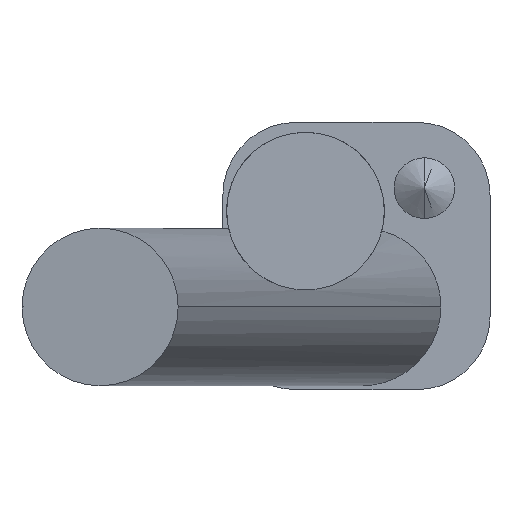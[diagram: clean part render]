
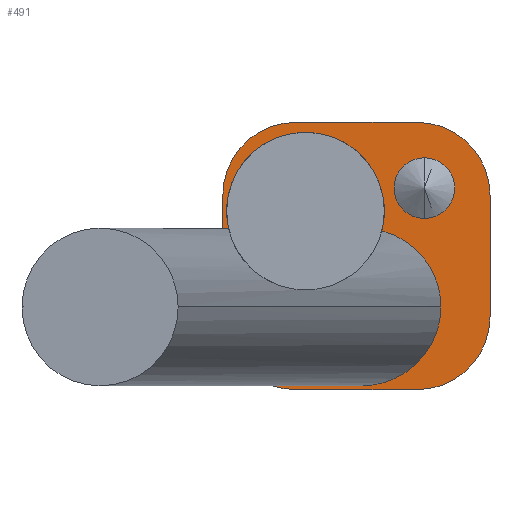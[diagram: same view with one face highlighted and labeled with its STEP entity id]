
A CAD part, front view. The second image highlights one B-rep face of the part: STEP entity #491.
In plain terms, the highlighted planar face has unit normal (0, -1, 0).
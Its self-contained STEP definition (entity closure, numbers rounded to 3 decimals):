
#3 = CIRCLE ( 'NONE', #97, 6. ) ;
#7 = DIRECTION ( 'NONE',  ( 0., 0., -1. ) ) ;
#12 = CARTESIAN_POINT ( 'NONE',  ( -11.012, 0., 11.012 ) ) ;
#15 = DIRECTION ( 'NONE',  ( 0., -1., 0. ) ) ;
#16 = VERTEX_POINT ( 'NONE', #583 ) ;
#30 = CARTESIAN_POINT ( 'NONE',  ( 6.968, 0., -4.2 ) ) ;
#33 = ORIENTED_EDGE ( 'NONE', *, *, #233, .T. ) ;
#38 = CARTESIAN_POINT ( 'NONE',  ( 2.095, 0., 2.081 ) ) ;
#45 = AXIS2_PLACEMENT_3D ( 'NONE', #721, #311, #667 ) ;
#46 = CARTESIAN_POINT ( 'NONE',  ( 2.095, 0., 2.081 ) ) ;
#48 = LINE ( 'NONE', #12, #636 ) ;
#52 = VERTEX_POINT ( 'NONE', #639 ) ;
#63 = CARTESIAN_POINT ( 'NONE',  ( -6.159, 0., -4.2 ) ) ;
#64 = ORIENTED_EDGE ( 'NONE', *, *, #724, .F. ) ;
#66 = EDGE_CURVE ( 'NONE', #320, #85, #246, .T. ) ;
#71 = VERTEX_POINT ( 'NONE', #353 ) ;
#76 = VECTOR ( 'NONE', #699, 1000. ) ;
#80 = AXIS2_PLACEMENT_3D ( 'NONE', #179, #641, #643 ) ;
#83 = DIRECTION ( 'NONE',  ( 0., -1., 0. ) ) ;
#85 = VERTEX_POINT ( 'NONE', #117 ) ;
#88 = VERTEX_POINT ( 'NONE', #125 ) ;
#97 = AXIS2_PLACEMENT_3D ( 'NONE', #568, #454, #7 ) ;
#103 = DIRECTION ( 'NONE',  ( 1., 0., 0. ) ) ;
#104 = CIRCLE ( 'NONE', #378, 2.5 ) ;
#106 = CARTESIAN_POINT ( 'NONE',  ( -11.012, 0., -5.012 ) ) ;
#108 = CARTESIAN_POINT ( 'NONE',  ( -5.012, 0., 11.012 ) ) ;
#110 = DIRECTION ( 'NONE',  ( -1., 0., 0. ) ) ;
#113 = DIRECTION ( 'NONE',  ( 0., 0., -1. ) ) ;
#114 = ORIENTED_EDGE ( 'NONE', *, *, #494, .T. ) ;
#117 = CARTESIAN_POINT ( 'NONE',  ( 11.013, 0., -5.012 ) ) ;
#120 = CARTESIAN_POINT ( 'NONE',  ( -6.088, 0., -3.097 ) ) ;
#122 = FACE_OUTER_BOUND ( 'NONE', #624, .T. ) ;
#125 = CARTESIAN_POINT ( 'NONE',  ( 5.6, 0., 3.1 ) ) ;
#126 = ORIENTED_EDGE ( 'NONE', *, *, #255, .F. ) ;
#140 = VERTEX_POINT ( 'NONE', #536 ) ;
#143 =( BOUNDED_CURVE ( )  B_SPLINE_CURVE ( 3, ( #46, #326, #680, #439 ),
 .UNSPECIFIED., .F., .F. ) 
 B_SPLINE_CURVE_WITH_KNOTS ( ( 4, 4 ),
 ( 4.973, 6.283 ),
 .UNSPECIFIED. ) 
 CURVE ( )  GEOMETRIC_REPRESENTATION_ITEM ( )  RATIONAL_B_SPLINE_CURVE ( ( 1., 0.862, 0.862, 1. ) ) 
 REPRESENTATION_ITEM ( '' )  );
#149 = DIRECTION ( 'NONE',  ( 0., -1., 0. ) ) ;
#152 = CARTESIAN_POINT ( 'NONE',  ( -11.012, 0., 11.012 ) ) ;
#172 = DIRECTION ( 'NONE',  ( 0., 0., -1. ) ) ;
#175 = CIRCLE ( 'NONE', #464, 6.5 ) ;
#179 = CARTESIAN_POINT ( 'NONE',  ( 0., 0., 0. ) ) ;
#221 = ORIENTED_EDGE ( 'NONE', *, *, #423, .F. ) ;
#224 = DIRECTION ( 'NONE',  ( 0., -1., 0. ) ) ;
#233 = EDGE_CURVE ( 'NONE', #704, #52, #613, .T. ) ;
#246 = LINE ( 'NONE', #466, #76 ) ;
#253 = LINE ( 'NONE', #465, #486 ) ;
#255 = EDGE_CURVE ( 'NONE', #704, #393, #305, .T. ) ;
#256 = DIRECTION ( 'NONE',  ( 0., 0., -1. ) ) ;
#267 = CARTESIAN_POINT ( 'NONE',  ( 6.968, 0., -4.2 ) ) ;
#275 = VECTOR ( 'NONE', #103, 1000. ) ;
#280 = ORIENTED_EDGE ( 'NONE', *, *, #510, .F. ) ;
#288 = AXIS2_PLACEMENT_3D ( 'NONE', #554, #83, #375 ) ;
#290 = CARTESIAN_POINT ( 'NONE',  ( -6.159, 0., -4.2 ) ) ;
#305 = LINE ( 'NONE', #152, #275 ) ;
#310 = DIRECTION ( 'NONE',  ( 0., 0., 1. ) ) ;
#311 = DIRECTION ( 'NONE',  ( 0., -1., 0. ) ) ;
#312 = EDGE_LOOP ( 'NONE', ( #658, #64 ) ) ;
#320 = VERTEX_POINT ( 'NONE', #611 ) ;
#324 = EDGE_CURVE ( 'NONE', #648, #529, #143, .T. ) ;
#326 = CARTESIAN_POINT ( 'NONE',  ( 5.084, 0., 1.292 ) ) ;
#348 = EDGE_CURVE ( 'NONE', #140, #571, #403, .T. ) ;
#351 = ORIENTED_EDGE ( 'NONE', *, *, #358, .T. ) ;
#353 = CARTESIAN_POINT ( 'NONE',  ( 5.6, 0., 8.1 ) ) ;
#358 = EDGE_CURVE ( 'NONE', #529, #450, #462, .T. ) ;
#360 = VERTEX_POINT ( 'NONE', #522 ) ;
#375 = DIRECTION ( 'NONE',  ( 0., 0., -1. ) ) ;
#377 = DIRECTION ( 'NONE',  ( 0., -1., 0. ) ) ;
#378 = AXIS2_PLACEMENT_3D ( 'NONE', #433, #377, #256 ) ;
#381 = FACE_BOUND ( 'NONE', #689, .T. ) ;
#393 = VERTEX_POINT ( 'NONE', #515 ) ;
#396 = FACE_BOUND ( 'NONE', #312, .T. ) ;
#401 = AXIS2_PLACEMENT_3D ( 'NONE', #731, #224, #172 ) ;
#403 = CIRCLE ( 'NONE', #619, 6.5 ) ;
#410 = ORIENTED_EDGE ( 'NONE', *, *, #66, .F. ) ;
#421 = VERTEX_POINT ( 'NONE', #106 ) ;
#423 = EDGE_CURVE ( 'NONE', #360, #16, #253, .T. ) ;
#433 = CARTESIAN_POINT ( 'NONE',  ( 5.6, 0., 5.6 ) ) ;
#434 = EDGE_CURVE ( 'NONE', #450, #571, #595, .T. ) ;
#438 = DIRECTION ( 'NONE',  ( 0., 0., -1. ) ) ;
#439 = CARTESIAN_POINT ( 'NONE',  ( 6.968, 0., -4.2 ) ) ;
#450 = VERTEX_POINT ( 'NONE', #63 ) ;
#453 = CARTESIAN_POINT ( 'NONE',  ( -6.159, 0., -4.2 ) ) ;
#454 = DIRECTION ( 'NONE',  ( 0., -1., 0. ) ) ;
#455 = DIRECTION ( 'NONE',  ( 0., -1., 0. ) ) ;
#458 = CARTESIAN_POINT ( 'NONE',  ( -4.2, 0., 3.7 ) ) ;
#461 = CARTESIAN_POINT ( 'NONE',  ( 6.968, 0., -17.2 ) ) ;
#462 =( BOUNDED_CURVE ( )  B_SPLINE_CURVE ( 3, ( #267, #461, #572, #453 ),
 .UNSPECIFIED., .F., .F. ) 
 B_SPLINE_CURVE_WITH_KNOTS ( ( 4, 4 ),
 ( 0., 3.142 ),
 .UNSPECIFIED. ) 
 CURVE ( )  GEOMETRIC_REPRESENTATION_ITEM ( )  RATIONAL_B_SPLINE_CURVE ( ( 1., 0.333, 0.333, 1. ) ) 
 REPRESENTATION_ITEM ( '' )  );
#464 = AXIS2_PLACEMENT_3D ( 'NONE', #495, #149, #438 ) ;
#465 = CARTESIAN_POINT ( 'NONE',  ( -11.012, 0., -11.013 ) ) ;
#466 = CARTESIAN_POINT ( 'NONE',  ( 11.013, 0., 11.012 ) ) ;
#477 = AXIS2_PLACEMENT_3D ( 'NONE', #487, #15, #656 ) ;
#480 = ORIENTED_EDGE ( 'NONE', *, *, #324, .T. ) ;
#486 = VECTOR ( 'NONE', #110, 1000. ) ;
#487 = CARTESIAN_POINT ( 'NONE',  ( -5.012, 0., -5.012 ) ) ;
#491 = ADVANCED_FACE ( 'NONE', ( #396, #381, #122 ), #591, .T. ) ;
#494 = EDGE_CURVE ( 'NONE', #421, #16, #654, .T. ) ;
#495 = CARTESIAN_POINT ( 'NONE',  ( -4.2, 0., 3.7 ) ) ;
#498 = ORIENTED_EDGE ( 'NONE', *, *, #562, .F. ) ;
#510 = EDGE_CURVE ( 'NONE', #421, #52, #48, .T. ) ;
#515 = CARTESIAN_POINT ( 'NONE',  ( 5.012, 0., 11.012 ) ) ;
#519 = ORIENTED_EDGE ( 'NONE', *, *, #434, .T. ) ;
#522 = CARTESIAN_POINT ( 'NONE',  ( 5.012, 0., -11.013 ) ) ;
#529 = VERTEX_POINT ( 'NONE', #30 ) ;
#536 = CARTESIAN_POINT ( 'NONE',  ( -4.2, 0., 10.2 ) ) ;
#549 = EDGE_CURVE ( 'NONE', #71, #88, #104, .T. ) ;
#550 = CARTESIAN_POINT ( 'NONE',  ( -6.159, 0., -3.646 ) ) ;
#554 = CARTESIAN_POINT ( 'NONE',  ( 5.012, 0., -5.013 ) ) ;
#562 = EDGE_CURVE ( 'NONE', #648, #140, #175, .T. ) ;
#568 = CARTESIAN_POINT ( 'NONE',  ( 5.013, 0., 5.012 ) ) ;
#571 = VERTEX_POINT ( 'NONE', #666 ) ;
#572 = CARTESIAN_POINT ( 'NONE',  ( -6.159, 0., -17.2 ) ) ;
#583 = CARTESIAN_POINT ( 'NONE',  ( -5.012, 0., -11.013 ) ) ;
#591 = PLANE ( 'NONE',  #80 ) ;
#595 =( BOUNDED_CURVE ( )  B_SPLINE_CURVE ( 3, ( #290, #550, #120, #694 ),
 .UNSPECIFIED., .F., .F. ) 
 B_SPLINE_CURVE_WITH_KNOTS ( ( 4, 4 ),
 ( 3.142, 3.397 ),
 .UNSPECIFIED. ) 
 CURVE ( )  GEOMETRIC_REPRESENTATION_ITEM ( )  RATIONAL_B_SPLINE_CURVE ( ( 1., 0.995, 0.995, 1. ) ) 
 REPRESENTATION_ITEM ( '' )  );
#603 = ORIENTED_EDGE ( 'NONE', *, *, #348, .F. ) ;
#611 = CARTESIAN_POINT ( 'NONE',  ( 11.013, 0., 5.012 ) ) ;
#613 = CIRCLE ( 'NONE', #45, 6. ) ;
#619 = AXIS2_PLACEMENT_3D ( 'NONE', #458, #455, #113 ) ;
#624 = EDGE_LOOP ( 'NONE', ( #280, #114, #221, #738, #410, #723, #126, #33 ) ) ;
#636 = VECTOR ( 'NONE', #310, 1000. ) ;
#639 = CARTESIAN_POINT ( 'NONE',  ( -11.012, 0., 5.012 ) ) ;
#641 = DIRECTION ( 'NONE',  ( 0., -1., 0. ) ) ;
#643 = DIRECTION ( 'NONE',  ( 0., 0., -1. ) ) ;
#644 = EDGE_CURVE ( 'NONE', #360, #85, #653, .T. ) ;
#648 = VERTEX_POINT ( 'NONE', #38 ) ;
#653 = CIRCLE ( 'NONE', #288, 6. ) ;
#654 = CIRCLE ( 'NONE', #477, 6. ) ;
#656 = DIRECTION ( 'NONE',  ( 0., 0., -1. ) ) ;
#658 = ORIENTED_EDGE ( 'NONE', *, *, #549, .F. ) ;
#666 = CARTESIAN_POINT ( 'NONE',  ( -5.947, 0., -2.561 ) ) ;
#667 = DIRECTION ( 'NONE',  ( 0., 0., -1. ) ) ;
#672 = EDGE_CURVE ( 'NONE', #320, #393, #3, .T. ) ;
#680 = CARTESIAN_POINT ( 'NONE',  ( 6.968, 0., -1.137 ) ) ;
#689 = EDGE_LOOP ( 'NONE', ( #498, #480, #351, #519, #603 ) ) ;
#694 = CARTESIAN_POINT ( 'NONE',  ( -5.947, 0., -2.561 ) ) ;
#699 = DIRECTION ( 'NONE',  ( 0., 0., -1. ) ) ;
#704 = VERTEX_POINT ( 'NONE', #108 ) ;
#707 = CIRCLE ( 'NONE', #401, 2.5 ) ;
#721 = CARTESIAN_POINT ( 'NONE',  ( -5.012, 0., 5.012 ) ) ;
#723 = ORIENTED_EDGE ( 'NONE', *, *, #672, .T. ) ;
#724 = EDGE_CURVE ( 'NONE', #88, #71, #707, .T. ) ;
#731 = CARTESIAN_POINT ( 'NONE',  ( 5.6, 0., 5.6 ) ) ;
#738 = ORIENTED_EDGE ( 'NONE', *, *, #644, .T. ) ;
